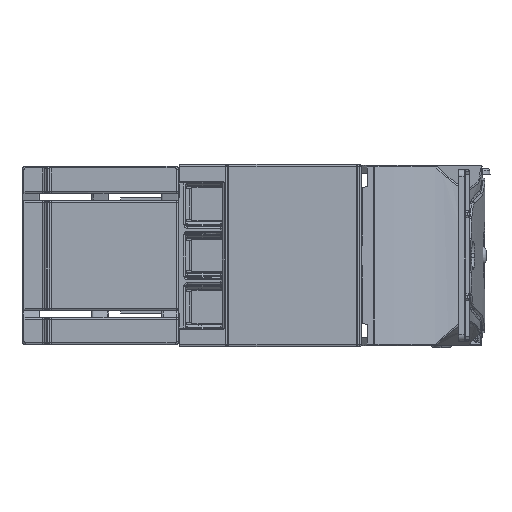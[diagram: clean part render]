
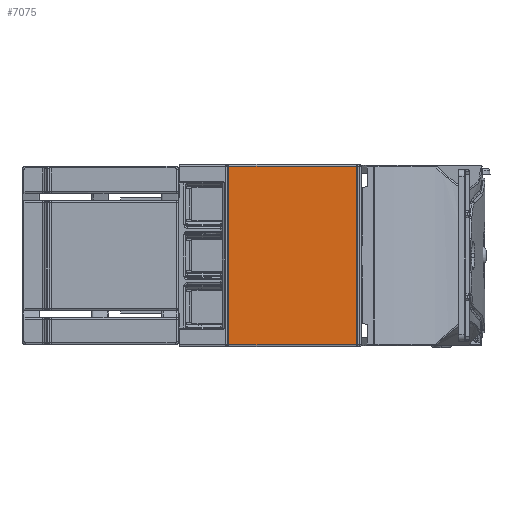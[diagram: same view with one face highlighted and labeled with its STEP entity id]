
A CAD part, front view. The second image highlights one B-rep face of the part: STEP entity #7075.
In plain terms, the highlighted planar face has unit normal (0, -1, 0).
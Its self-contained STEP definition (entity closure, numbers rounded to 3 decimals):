
#3160=PLANE('',#48941);
#4470=FACE_OUTER_BOUND('',#19303,.T.);
#7075=ADVANCED_FACE('',(#4470),#3160,.F.);
#13119=LINE('',#70980,#16238);
#13129=LINE('',#71029,#16248);
#13130=LINE('',#71031,#16249);
#13131=LINE('',#71033,#16250);
#16238=VECTOR('',#55404,1.);
#16248=VECTOR('',#55434,1.);
#16249=VECTOR('',#55435,1.);
#16250=VECTOR('',#55436,1.);
#19303=EDGE_LOOP('',(#24670,#24671,#24672,#24673));
#24670=ORIENTED_EDGE('',*,*,#41358,.T.);
#24671=ORIENTED_EDGE('',*,*,#41359,.T.);
#24672=ORIENTED_EDGE('',*,*,#41360,.T.);
#24673=ORIENTED_EDGE('',*,*,#41341,.T.);
#36512=VERTEX_POINT('',#70981);
#36513=VERTEX_POINT('',#70982);
#36523=VERTEX_POINT('',#71030);
#36524=VERTEX_POINT('',#71032);
#41341=EDGE_CURVE('',#36512,#36513,#13119,.T.);
#41358=EDGE_CURVE('',#36513,#36523,#13129,.T.);
#41359=EDGE_CURVE('',#36523,#36524,#13130,.T.);
#41360=EDGE_CURVE('',#36524,#36512,#13131,.T.);
#48941=AXIS2_PLACEMENT_3D('',#71034,#55437,#55438);
#55404=DIRECTION('',(0.,0.,-1.));
#55434=DIRECTION('',(1.,0.,0.));
#55435=DIRECTION('',(0.,0.,1.));
#55436=DIRECTION('',(-1.,0.,0.));
#55437=DIRECTION('',(0.,1.,0.));
#55438=DIRECTION('',(0.,0.,-1.));
#70980=CARTESIAN_POINT('',(15.5,-194.,-50.267));
#70981=CARTESIAN_POINT('',(15.5,-194.,-0.5));
#70982=CARTESIAN_POINT('',(15.5,-194.,-52.5));
#71029=CARTESIAN_POINT('',(54.,-194.,-52.5));
#71030=CARTESIAN_POINT('',(52.5,-194.,-52.5));
#71031=CARTESIAN_POINT('',(52.5,-194.,0.));
#71032=CARTESIAN_POINT('',(52.5,-194.,-0.5));
#71033=CARTESIAN_POINT('',(54.,-194.,-0.5));
#71034=CARTESIAN_POINT('',(54.,-194.,0.));
